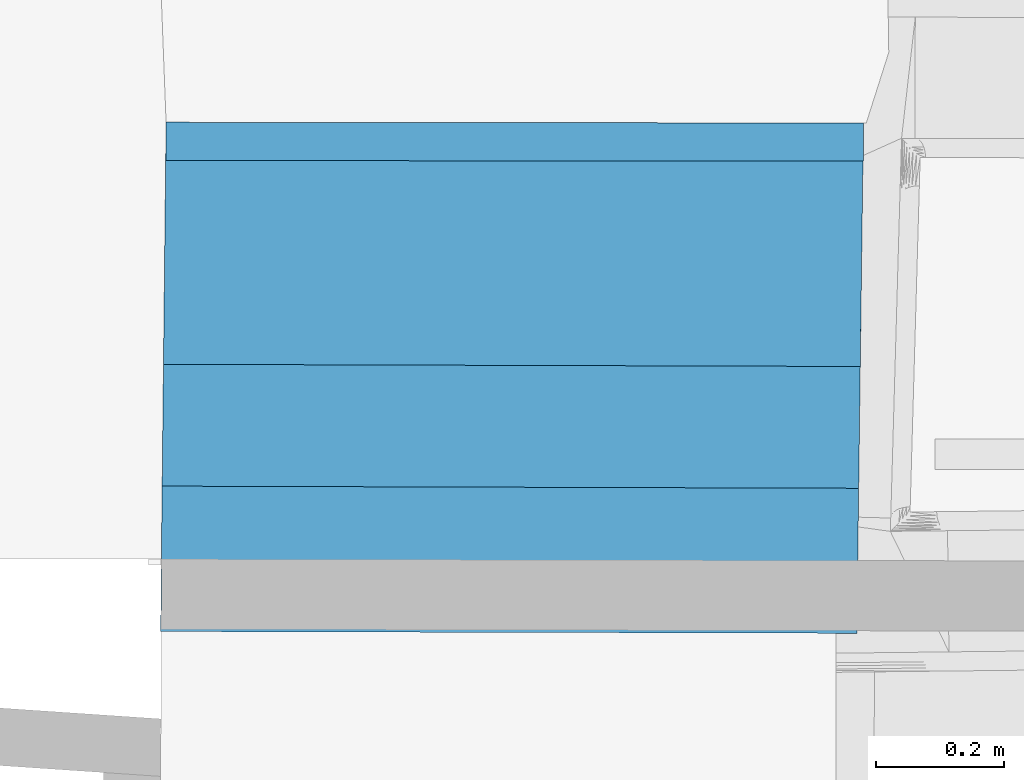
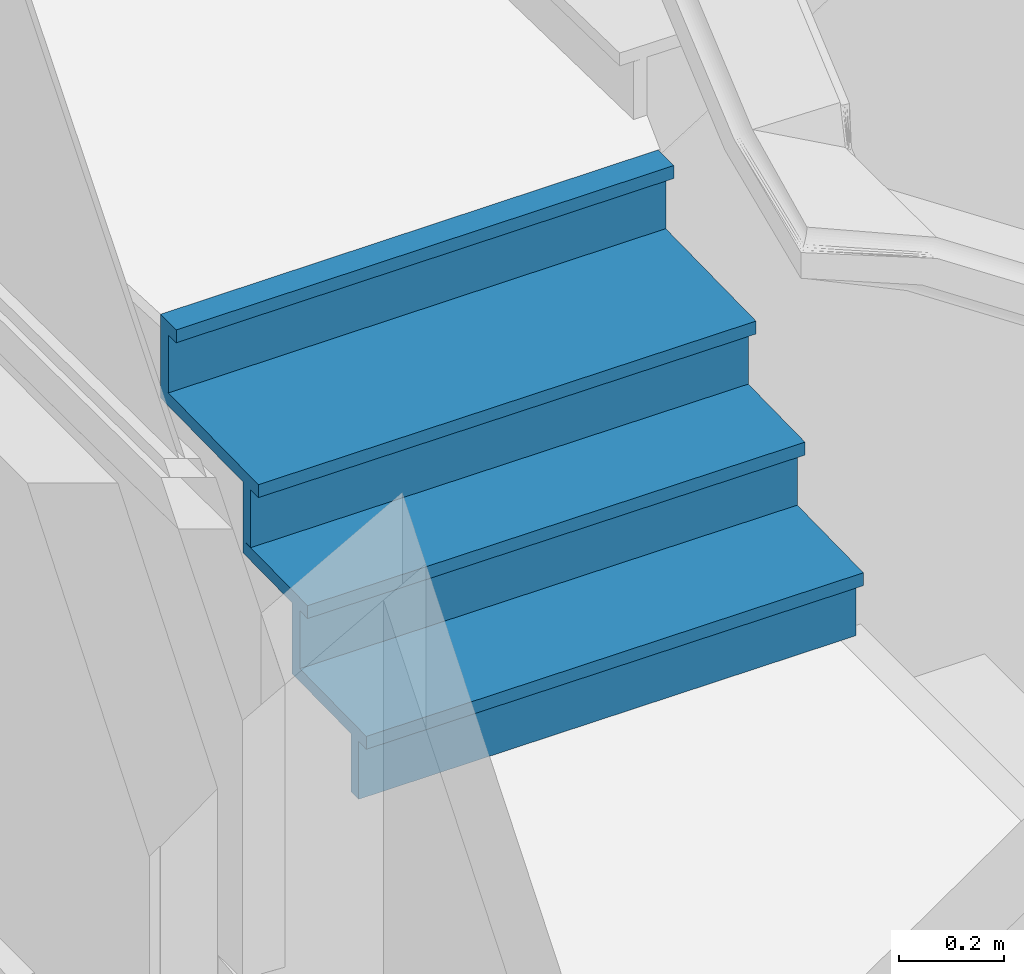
# One storey, part 72 of 97: 1 stair flight, 1 element without a shape of its own.
"""IFC2X3 building model written with IfcOpenShell, lengths in centimetres."""

from ifc_helpers import new_model, entity, si_unit, converted_unit, direction, frame, origin, origin_with_axes, place, context, subcontext, project, spatial, faceted_brep, material, material_list, element, aggregate, save


model = new_model("IFC2X3")

# Units and contexts
model_context = context("Model", 3, precision=0.0001, world=origin(), true_north=direction((0.225632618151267, 0.974212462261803, 0.0)))
body_context = subcontext(model_context, "Body", "Model", "MODEL_VIEW")
ifc_project = project(units=[si_unit("LENGTHUNIT", "METRE", prefix="CENTI"), si_unit("AREAUNIT", "SQUARE_METRE", prefix="CENTI"), si_unit("VOLUMEUNIT", "CUBIC_METRE", prefix="CENTI"), converted_unit("PLANEANGLEUNIT", "DEGREE", entity("IfcRatioMeasure", 0.0174532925), si_unit("PLANEANGLEUNIT", "RADIAN"), dimensions=[0, 0, 0, 0, 0, 0, 0])], contexts=[model_context])

# Site, building, storey
site_placement = place(None, origin_with_axes())
site = spatial("IfcSite", under=ifc_project, at=site_placement, Name="Default Site", CompositionType="ELEMENT")
building_placement = place(site_placement, origin_with_axes())
building = spatial("IfcBuilding", under=site, at=building_placement, Name="Default Building", CompositionType="ELEMENT")
storey_placement = place(building_placement, origin_with_axes())
storey = spatial("IfcBuildingStorey", under=building, at=storey_placement, Name="Rez-de-chaussée", CompositionType="ELEMENT", Elevation=0.0)

# Stair, stair flight
stair_placement = place(storey_placement, frame((-869.486892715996, -231.842367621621, 0.0), z_axis=(0.0, 0.0, 1.0), x_axis=(1.0, 0.0, 0.0)))
stair = element("IfcStair", 1, at=stair_placement, inside=storey, Name="Escalier 12888", ShapeType="NOTDEFINED")
ifc_material_1 = material(Name="Noyer 01")
ifc_material_2 = material(Name="Épicéa")
ifc_material_list = material_list([ifc_material_1, ifc_material_2])
stair_flight_placement = place(stair_placement, frame((-430.758487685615, 56.1870622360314, 227.659821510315), z_axis=(0.0, 0.0, 1.0), x_axis=(0.00254313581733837, 0.999996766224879, 0.0)))
stair_flight = element("IfcStairFlight", 2, at=stair_flight_placement, material=ifc_material_list, Name="4294967270", context=body_context, shape_type="Brep", body=[
    faceted_brep([(-2.99999491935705, 0.0, -13.4757041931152), (0.0, 0.0, -13.4757041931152), (0.00277447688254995, -109.179842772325, -13.4757041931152), (-2.99723212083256, -109.179938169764, -13.4757041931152), (0.0, 0.0, 0.0), (-2.99999491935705, 0.0, 0.0), (-2.99723212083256, -109.179938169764, 0.0), (0.00277447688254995, -109.179842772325, 0.0), (-2.99723210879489, -109.179938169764, -13.4757041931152), (-2.99999493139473, -3.04614688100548e-13, 0.0), (-2.99999491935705, -2.30468418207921e-10, -13.4757041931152), (-1.77052605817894e-20, 2.30468418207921e-10, 0.0), (8.01928121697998e-10, 2.03785821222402e-14, -13.4757041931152), (0.00277447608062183, -109.179842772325, 0.0), (0.00277447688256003, -109.179842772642, -13.4757041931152), (-2.99723212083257, -109.179938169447, 0.0)], [[[0, 1, 2]], [[2, 3, 0]], [[4, 5, 6]], [[6, 7, 4]], [[5, 0, 8]], [[3, 6, 9]], [[4, 1, 10]], [[0, 5, 11]], [[7, 2, 12]], [[1, 4, 13]], [[6, 3, 14]], [[2, 7, 15]]]),
    faceted_brep([(19.8104182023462, -0.18727566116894, 2.99999713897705), (22.8104172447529, -0.188896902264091, 2.99999713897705), (22.7486569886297, -109.41773207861, 2.99999713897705), (19.748657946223, -109.416110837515, 2.99999713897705), (22.8104172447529, -0.188896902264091, 16.4757013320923), (19.8104182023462, -0.18727566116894, 16.4757013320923), (19.748657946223, -109.416110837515, 16.4757013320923), (22.7486569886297, -109.41773207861, 16.4757013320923), (19.7486579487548, -109.416110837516, 2.99999713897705), (19.8104181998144, -0.187275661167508, 16.4757013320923), (19.8104182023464, -0.18727566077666, 2.99999713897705), (22.8104172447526, -0.18889690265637, 16.4757013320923), (22.810417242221, -0.188896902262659, 2.99999713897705), (22.7486569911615, -109.417732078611, 16.4757013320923), (22.7486569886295, -109.417732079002, 2.99999713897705), (19.7486579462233, -109.416110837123, 16.4757013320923)], [[[0, 1, 2]], [[2, 3, 0]], [[4, 5, 6]], [[6, 7, 4]], [[5, 0, 8]], [[3, 6, 9]], [[4, 1, 10]], [[0, 5, 11]], [[7, 2, 12]], [[1, 4, 13]], [[6, 3, 14]], [[2, 7, 15]]]),
    faceted_brep([(38.9106661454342, -0.345458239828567, 19.4756984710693), (41.9106654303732, -0.34717484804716, 19.4756984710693), (41.848879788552, -109.617590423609, 19.4756984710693), (38.848880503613, -109.615873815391, 19.4756984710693), (41.9106654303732, -0.34717484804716, 32.9514026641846), (38.9106661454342, -0.345458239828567, 32.9514026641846), (38.848880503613, -109.615873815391, 32.9514026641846), (41.848879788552, -109.617590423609, 32.9514026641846), (38.8488804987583, -109.615873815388, 19.4756984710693), (38.9106661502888, -0.345458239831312, 32.9514026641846), (38.9106661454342, -0.345458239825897, 19.4756984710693), (41.9106654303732, -0.34717484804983, 32.9514026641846), (41.9106654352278, -0.347174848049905, 19.4756984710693), (41.8488797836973, -109.617590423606, 32.9514026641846), (41.848879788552, -109.617590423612, 19.4756984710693), (38.848880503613, -109.615873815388, 32.9514026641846)], [[[0, 1, 2]], [[2, 3, 0]], [[4, 5, 6]], [[6, 7, 4]], [[5, 0, 8]], [[3, 6, 9]], [[4, 1, 10]], [[0, 5, 11]], [[7, 2, 12]], [[1, 4, 13]], [[6, 3, 14]], [[2, 7, 15]]]),
    faceted_brep([(70.8708014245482, -0.616372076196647, 35.9513998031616), (73.870796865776, -0.611889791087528, 35.9513998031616), (74.0319850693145, -109.954217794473, 35.9513998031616), (71.0319896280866, -109.958700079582, 35.9513998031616), (73.870796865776, -0.611889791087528, 49.4271039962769), (70.8708014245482, -0.616372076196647, 49.4271039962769), (71.0319896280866, -109.958700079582, 49.4271039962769), (74.0319850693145, -109.954217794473, 49.4271039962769), (71.0319896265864, -109.958700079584, 35.9513998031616), (70.8708014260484, -0.616372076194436, 49.4271039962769), (70.8708014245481, -0.616372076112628, 35.9513998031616), (73.8707968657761, -0.611889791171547, 49.4271039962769), (73.8707968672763, -0.611889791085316, 35.9513998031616), (74.0319850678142, -109.954217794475, 49.4271039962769), (74.0319850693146, -109.954217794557, 35.9513998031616), (71.0319896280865, -109.958700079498, 49.4271039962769)], [[[0, 1, 2]], [[2, 3, 0]], [[4, 5, 6]], [[6, 7, 4]], [[5, 0, 8]], [[3, 6, 9]], [[4, 1, 10]], [[0, 5, 11]], [[7, 2, 12]], [[1, 4, 13]], [[6, 3, 14]], [[2, 7, 15]]]),
    faceted_brep([(-5.99723189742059, -109.117090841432, 2.99999713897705), (22.7486569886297, -109.41773207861, 2.99999713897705), (22.8104172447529, -0.188896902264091, 2.99999713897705), (-5.99999723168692, 0.0497819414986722, 2.99999713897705), (22.8104172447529, -0.188896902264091, 0.0), (22.7486569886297, -109.41773207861, 0.0), (-5.99723189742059, -109.117090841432, 0.0), (-5.99999723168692, 0.0497819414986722, 0.0), (-5.99999722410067, 0.0497819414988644, 2.99999713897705), (-5.99723190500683, -109.117090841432, 0.0), (-5.99723189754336, -109.117090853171, 2.99999713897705), (22.7486569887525, -109.417732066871, 0.0), (22.7486569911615, -109.417732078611, 2.99999713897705), (22.810417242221, -0.188896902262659, 0.0), (22.8104172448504, -0.188896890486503, 2.99999713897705), (-5.99999723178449, 0.0497819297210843, 0.0)], [[[0, 1, 2]], [[2, 3, 0]], [[4, 5, 6]], [[6, 7, 4]], [[6, 0, 8]], [[3, 7, 9]], [[5, 1, 10]], [[0, 6, 11]], [[4, 2, 12]], [[1, 5, 13]], [[7, 3, 14]], [[2, 4, 15]]]),
    faceted_brep([(16.7486863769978, -109.354980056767, 19.4756984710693), (41.848879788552, -109.617590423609, 19.4756984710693), (41.9106654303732, -0.34717484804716, 19.4756984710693), (16.8104440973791, -0.139210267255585, 19.4756984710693), (41.9106654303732, -0.34717484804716, 16.4757013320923), (41.848879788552, -109.617590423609, 16.4757013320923), (16.7486863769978, -109.354980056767, 16.4757013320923), (16.8104440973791, -0.139210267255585, 16.4757013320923), (16.8104441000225, -0.13921026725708, 19.4756984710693), (16.7486863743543, -109.354980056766, 16.4757013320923), (16.7486863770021, -109.354980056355, 19.4756984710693), (41.8488797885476, -109.617590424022, 16.4757013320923), (41.8488797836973, -109.617590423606, 19.4756984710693), (41.9106654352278, -0.347174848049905, 16.4757013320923), (41.9106654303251, -0.347174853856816, 19.4756984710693), (16.8104440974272, -0.139210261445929, 16.4757013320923)], [[[0, 1, 2]], [[2, 3, 0]], [[4, 5, 6]], [[6, 7, 4]], [[6, 0, 8]], [[3, 7, 9]], [[5, 1, 10]], [[0, 6, 11]], [[4, 2, 12]], [[1, 5, 13]], [[7, 3, 14]], [[2, 4, 15]]]),
    faceted_brep([(35.8489091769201, -109.554838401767, 35.9513998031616), (74.0319850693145, -109.954217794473, 35.9513998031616), (73.870796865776, -0.611889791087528, 35.9513998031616), (35.9106922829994, -0.297488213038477, 35.9513998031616), (73.870796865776, -0.611889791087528, 32.9514026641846), (74.0319850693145, -109.954217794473, 32.9514026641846), (35.8489091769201, -109.554838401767, 32.9514026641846), (35.9106922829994, -0.297488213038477, 32.9514026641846), (35.910692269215, -0.297488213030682, 35.9513998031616), (35.8489091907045, -109.554838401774, 32.9514026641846), (35.8489091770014, -109.554838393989, 35.9513998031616), (74.0319850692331, -109.95421780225, 32.9514026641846), (74.0319850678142, -109.954217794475, 35.9513998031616), (73.8707968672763, -0.611889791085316, 32.9514026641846), (73.8707968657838, -0.61188979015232, 35.9513998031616), (35.9106922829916, -0.297488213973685, 32.9514026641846)], [[[0, 1, 2]], [[2, 3, 0]], [[4, 5, 6]], [[6, 7, 4]], [[6, 0, 8]], [[3, 7, 9]], [[5, 1, 10]], [[0, 6, 11]], [[4, 2, 12]], [[1, 5, 13]], [[7, 3, 14]], [[2, 4, 15]]]),
    faceted_brep([(68.0319939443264, -109.963086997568, 52.4271011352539), (74.0319850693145, -109.954217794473, 52.4271011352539), (73.870796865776, -0.611889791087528, 52.4271011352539), (67.8707938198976, -0.620759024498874, 52.4271011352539), (74.0319850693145, -109.954217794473, 49.4271039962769), (68.0319939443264, -109.963086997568, 49.4271039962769), (67.8707938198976, -0.620759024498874, 49.4271039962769), (73.870796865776, -0.611889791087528, 49.4271039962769), (67.8707938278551, -0.620759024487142, 52.4271011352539), (68.0319939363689, -109.963086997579, 49.4271039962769), (68.031993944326, -109.963086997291, 52.4271011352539), (74.0319850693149, -109.954217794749, 49.4271039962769), (74.0319850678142, -109.954217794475, 52.4271011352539), (73.8707968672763, -0.611889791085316, 49.4271039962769), (73.8707968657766, -0.611889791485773, 52.4271011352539), (67.870793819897, -0.620759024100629, 49.4271039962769)], [[[0, 1, 2]], [[2, 3, 0]], [[4, 5, 6]], [[6, 7, 4]], [[5, 0, 8]], [[3, 6, 9]], [[4, 1, 10]], [[0, 5, 11]], [[7, 2, 12]], [[1, 4, 13]], [[6, 3, 14]], [[2, 7, 15]]]),
])
aggregate(stair, [stair_flight])

save(model, "model.ifc")
